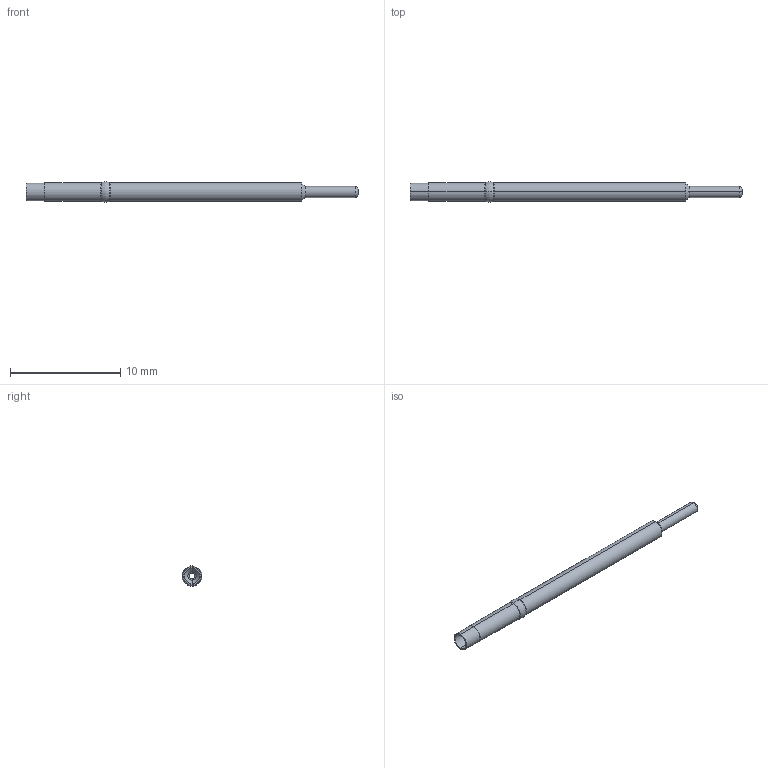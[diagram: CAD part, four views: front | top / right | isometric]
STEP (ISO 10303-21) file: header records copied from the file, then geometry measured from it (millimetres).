
FILE_DESCRIPTION (( 'STEP AP203' ), '1' );
FILE_NAME ('C-1.37Q-S-1A.STEP', '2024-11-29T05:14:07', ( '' ), ( '' ), 'SwSTEP 2.0', 'SolidWorks 2020', '' );
FILE_SCHEMA (( 'CONFIG_CONTROL_DESIGN' ));
Length unit declared in the file: millimetre
Products named in the file (1): C-1.37Q-S-1A
Bounding box: 30.1 x 1.83 x 1.84 mm (x, y, z)
Volume: 18.7 mm3; surface area: 271.3 mm2
Topology: 1 solids, 1 shells, 36 faces, 72 edges, 40 vertices
Faces by surface type: cylinder 16, torus 12, plane 4, cone 4
Entity records: 1017 total; most frequent: DIRECTION 198, CARTESIAN_POINT 149, ORIENTED_EDGE 144, AXIS2_PLACEMENT_3D 89, EDGE_CURVE 72, CIRCLE 52, EDGE_LOOP 40, VERTEX_POINT 40
